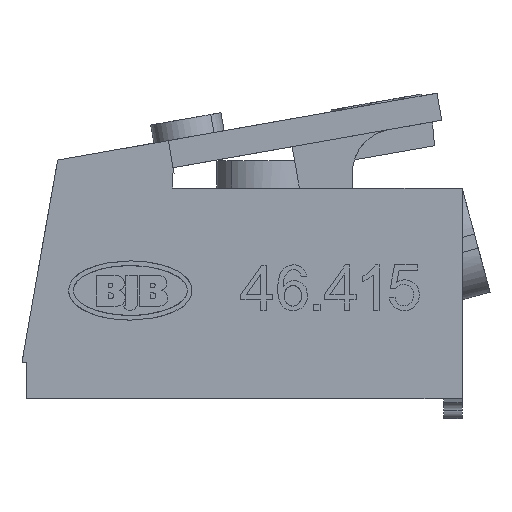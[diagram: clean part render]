
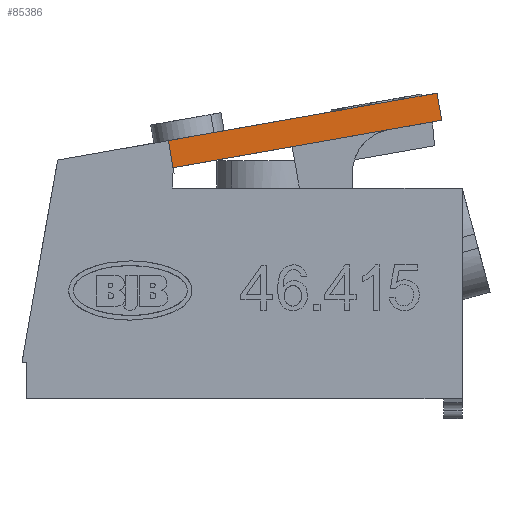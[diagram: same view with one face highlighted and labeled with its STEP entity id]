
A CAD part, left-side view. The second image highlights one B-rep face of the part: STEP entity #85386.
In plain terms, the highlighted planar face has unit normal (-1, 0, 0).
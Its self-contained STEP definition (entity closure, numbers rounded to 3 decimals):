
#46491=CARTESIAN_POINT(' ',(-23.3,16.04,14.09));
#46492=VERTEX_POINT(' ',#46491);
#46506=CARTESIAN_POINT(' ',(-23.3,1.366,16.678));
#46511=DIRECTION(' ',(0.,0.985,-0.174));
#46516=VECTOR(' ',#46511,1.);
#46521=LINE('',#46506,#46516);
#46526=CARTESIAN_POINT(' ',(-23.3,1.366,16.678));
#46527=VERTEX_POINT(' ',#46526);
#46531=EDGE_CURVE(' ',#46527,#46492,#46521,.T.);
#49856=CARTESIAN_POINT(' ',(-23.3,15.78,12.613));
#49857=VERTEX_POINT(' ',#49856);
#49871=CARTESIAN_POINT(' ',(-23.3,16.04,14.09));
#49876=DIRECTION(' ',(0.,-0.174,-0.985));
#49881=VECTOR(' ',#49876,1.);
#49886=LINE('',#49871,#49881);
#49891=EDGE_CURVE(' ',#46492,#49857,#49886,.T.);
#68101=CARTESIAN_POINT(' ',(-23.3,1.106,15.201));
#68102=VERTEX_POINT(' ',#68101);
#68116=CARTESIAN_POINT(' ',(-23.3,15.78,12.613));
#68121=DIRECTION(' ',(0.,-0.985,0.174));
#68126=VECTOR(' ',#68121,1.);
#68131=LINE('',#68116,#68126);
#68136=EDGE_CURVE(' ',#49857,#68102,#68131,.T.);
#85306=CARTESIAN_POINT(' ',(-23.3,1.106,12.613));
#85311=DIRECTION(' ',(-1.,0.,0.));
#85316=DIRECTION(' ',(0.,0.,1.));
#85321=AXIS2_PLACEMENT_3D(' ',#85306,#85311,#85316);
#85326=PLANE(' ',#85321);
#85331=ORIENTED_EDGE(' ',*,*,#46531,.T.);
#85336=ORIENTED_EDGE(' ',*,*,#49891,.T.);
#85341=ORIENTED_EDGE(' ',*,*,#68136,.T.);
#85346=CARTESIAN_POINT(' ',(-23.3,1.106,15.201));
#85351=DIRECTION(' ',(0.,0.174,0.985));
#85356=VECTOR(' ',#85351,1.);
#85361=LINE('',#85346,#85356);
#85366=EDGE_CURVE(' ',#68102,#46527,#85361,.T.);
#85371=ORIENTED_EDGE(' ',*,*,#85366,.T.);
#85376=EDGE_LOOP(' ',(#85331,#85336,#85341,#85371));
#85381=FACE_OUTER_BOUND(' ',#85376,.T.);
#85386=ADVANCED_FACE('',(#85381),#85326,.T.);
